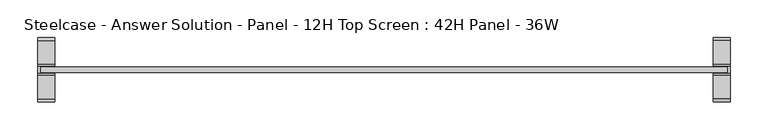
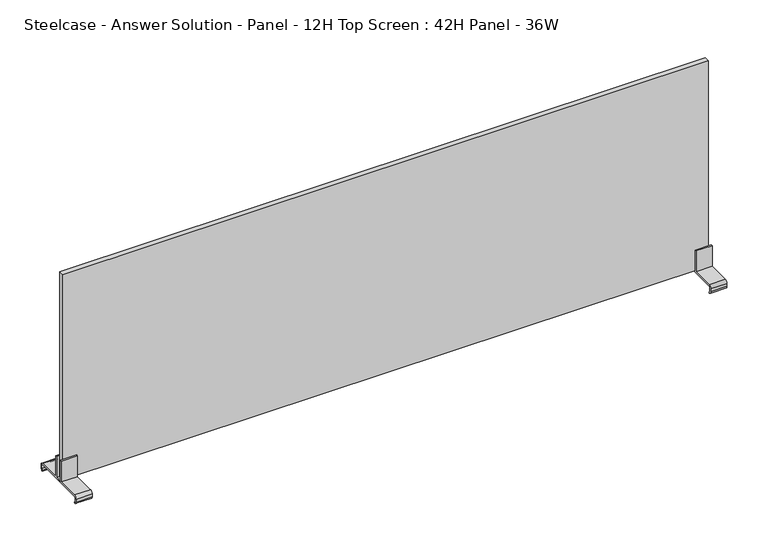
"""IFC4 building model written with IfcOpenShell, lengths in millimetres: furniture geometry, Steelcase - Answer Solution - Panel - 12H Top Screen : 42H Panel - 36W."""

from ifc_helpers import new_model, si_unit, point, frame, frame_2d, origin, place, context, project, spatial, polyline, circle_curve, trimmed, segment, composite_curve, outline, extrude, source, transform, mapped, element, save


def steelcase_answer_solution_panel_12h_top_screen_42h_panel_36w_b92af27f(model_context):
    return source(origin(), model_context, "Body", "SweptSolid", [
        extrude(outline(polyline([(453.136, -3.683001), (-453.136, -3.683001), (-453.136, 3.683001), (453.136, 3.683001), (453.136, -3.683001)])), frame((0.0, 0.0, 1075.1819981), z_axis=(0.0, 0.0, 1.0), x_axis=(1.0, 0.0, 0.0)), (0.0, 0.0, 1.0), 304.8),
        extrude(outline(composite_curve([segment(trimmed(circle_curve(frame_2d((38.5445, 1071.245)), 1.905), [point((40.4495, 1071.245))], [point((38.5445, 1073.15))], True, "CARTESIAN"), True, "CONTINUOUS"), segment(polyline([(38.5445, 1073.15), (-38.5445, 1073.15)]), True, "CONTINUOUS"), segment(trimmed(circle_curve(frame_2d((-38.5445, 1071.245)), 1.905), [point((-38.5445, 1073.15))], [point((-40.4495, 1071.245))], True, "CARTESIAN"), True, "CONTINUOUS"), segment(polyline([(-40.4495, 1071.245), (-40.4495, 1066.6341187)]), True, "CONTINUOUS"), segment(trimmed(circle_curve(frame_2d((-38.5445, 1066.6341187)), 1.905), [point((-40.4495, 1066.6341187))], [point((-38.6743328, 1064.7335481))], True, "CARTESIAN"), True, "CONTINUOUS"), segment(polyline([(-38.6743328, 1064.7335481), (-39.2392449, 1063.1535566)]), True, "CONTINUOUS"), segment(trimmed(circle_curve(frame_2d((-38.5459934, 1067.0284569)), 3.9364261), [point((-39.2392449, 1063.1535566))], [point((-42.4824195, 1067.0284569))], False, "CARTESIAN"), True, "CONTINUOUS"), segment(polyline([(-42.4824195, 1067.0284569), (-42.4824195, 1071.2452288)]), True, "CONTINUOUS"), segment(trimmed(circle_curve(frame_2d((-38.5459934, 1071.2452288)), 3.9364261), [point((-42.4824195, 1071.2452288))], [point((-38.5459934, 1075.1816549))], False, "CARTESIAN"), True, "CONTINUOUS"), segment(polyline([(-38.5459934, 1075.1816549), (-6.7310004, 1075.1816549), (-6.7310004, 1106.1699952), (-4.699, 1106.1699952), (-4.699, 1075.1819952), (4.699, 1075.1819952), (4.699, 1106.1700048), (6.7310004, 1106.1700048), (6.7310004, 1075.1816549), (38.5459934, 1075.1816549)]), True, "CONTINUOUS"), segment(trimmed(circle_curve(frame_2d((38.5459934, 1071.2452288)), 3.9364261), [point((38.5459934, 1075.1816549))], [point((42.4824195, 1071.2452288))], False, "CARTESIAN"), True, "CONTINUOUS"), segment(polyline([(42.4824195, 1071.2452288), (42.4824195, 1067.0284569)]), True, "CONTINUOUS"), segment(trimmed(circle_curve(frame_2d((38.5459934, 1067.0284569)), 3.9364261), [point((42.4824195, 1067.0284569))], [point((39.6631716, 1063.2538889))], False, "CARTESIAN"), True, "CONTINUOUS"), segment(polyline([(39.6631716, 1063.2538889), (39.1055128, 1064.8135996)]), True, "CONTINUOUS"), segment(trimmed(circle_curve(frame_2d((38.5445, 1066.6341187)), 1.905), [point((39.1055128, 1064.8135996))], [point((40.4495, 1066.6341187))], True, "CARTESIAN"), True, "CONTINUOUS"), segment(polyline([(40.4495, 1066.6341187), (40.4495, 1071.245)]), True, "CONTINUOUS")], self_intersect=False)), frame((434.594, 0.0, 0.0), z_axis=(1.0, 0.0, 0.0), x_axis=(0.0, 1.0, 0.0)), (0.0, 0.0, 1.0), 22.606),
        extrude(outline(composite_curve([segment(trimmed(circle_curve(frame_2d((38.5445, 1071.245)), 1.905), [point((40.4495, 1071.245))], [point((38.5445, 1073.15))], True, "CARTESIAN"), True, "CONTINUOUS"), segment(polyline([(38.5445, 1073.15), (-38.5445, 1073.15)]), True, "CONTINUOUS"), segment(trimmed(circle_curve(frame_2d((-38.5445, 1071.245)), 1.905), [point((-38.5445, 1073.15))], [point((-40.4495, 1071.245))], True, "CARTESIAN"), True, "CONTINUOUS"), segment(polyline([(-40.4495, 1071.245), (-40.4495, 1066.6341187)]), True, "CONTINUOUS"), segment(trimmed(circle_curve(frame_2d((-38.5445, 1066.6341187)), 1.905), [point((-40.4495, 1066.6341187))], [point((-38.6743328, 1064.7335481))], True, "CARTESIAN"), True, "CONTINUOUS"), segment(polyline([(-38.6743328, 1064.7335481), (-39.2392449, 1063.1535566)]), True, "CONTINUOUS"), segment(trimmed(circle_curve(frame_2d((-38.5459934, 1067.0284569)), 3.9364261), [point((-39.2392449, 1063.1535566))], [point((-42.4824195, 1067.0284569))], False, "CARTESIAN"), True, "CONTINUOUS"), segment(polyline([(-42.4824195, 1067.0284569), (-42.4824195, 1071.2452288)]), True, "CONTINUOUS"), segment(trimmed(circle_curve(frame_2d((-38.5459934, 1071.2452288)), 3.9364261), [point((-42.4824195, 1071.2452288))], [point((-38.5459934, 1075.1816549))], False, "CARTESIAN"), True, "CONTINUOUS"), segment(polyline([(-38.5459934, 1075.1816549), (-6.7310004, 1075.1816549), (-6.7310004, 1106.1699952), (-4.699, 1106.1699952), (-4.699, 1075.1819952), (4.699, 1075.1819952), (4.699, 1106.1700048), (6.7310004, 1106.1700048), (6.7310004, 1075.1816549), (38.5459934, 1075.1816549)]), True, "CONTINUOUS"), segment(trimmed(circle_curve(frame_2d((38.5459934, 1071.2452288)), 3.9364261), [point((38.5459934, 1075.1816549))], [point((42.4824195, 1071.2452288))], False, "CARTESIAN"), True, "CONTINUOUS"), segment(polyline([(42.4824195, 1071.2452288), (42.4824195, 1067.0284569)]), True, "CONTINUOUS"), segment(trimmed(circle_curve(frame_2d((38.5459934, 1067.0284569)), 3.9364261), [point((42.4824195, 1067.0284569))], [point((39.6631716, 1063.2538889))], False, "CARTESIAN"), True, "CONTINUOUS"), segment(polyline([(39.6631716, 1063.2538889), (39.1055128, 1064.8135996)]), True, "CONTINUOUS"), segment(trimmed(circle_curve(frame_2d((38.5445, 1066.6341187)), 1.905), [point((39.1055128, 1064.8135996))], [point((40.4495, 1066.6341187))], True, "CARTESIAN"), True, "CONTINUOUS"), segment(polyline([(40.4495, 1066.6341187), (40.4495, 1071.245)]), True, "CONTINUOUS")], self_intersect=False)), frame((-457.2, 0.0, 0.0), z_axis=(1.0, 0.0, 0.0), x_axis=(0.0, 1.0, 0.0)), (0.0, 0.0, 1.0), 22.606),
    ])


if __name__ == "__main__":
    model = new_model("IFC4")
    model_context = context("Model", 3, world=origin())
    ifc_project = project(units=[si_unit("LENGTHUNIT", "METRE", prefix="MILLI")], contexts=[model_context])
    site = spatial("IfcSite", under=ifc_project)
    building = spatial("IfcBuilding", under=site)
    placement = place(None, origin())
    steelcase_answer_solution_panel_12h_top_screen_42h_panel_36w_shape = steelcase_answer_solution_panel_12h_top_screen_42h_panel_36w_b92af27f(model_context)
    element("IfcFurniture", 1, ObjectType="Steelcase - Answer Solution - Panel - 12H Top Screen : 42H Panel - 36W", at=placement, inside=building, context=model_context, shape_type="MappedRepresentation", body=[
        mapped(steelcase_answer_solution_panel_12h_top_screen_42h_panel_36w_shape, transform((0.0, 0.0, 0.0), x_axis=(1.0, 0.0, 0.0), y_axis=(0.0, 1.0, 0.0), z_axis=(0.0, 0.0, 1.0))),
    ])
    save(model, "model.ifc")
